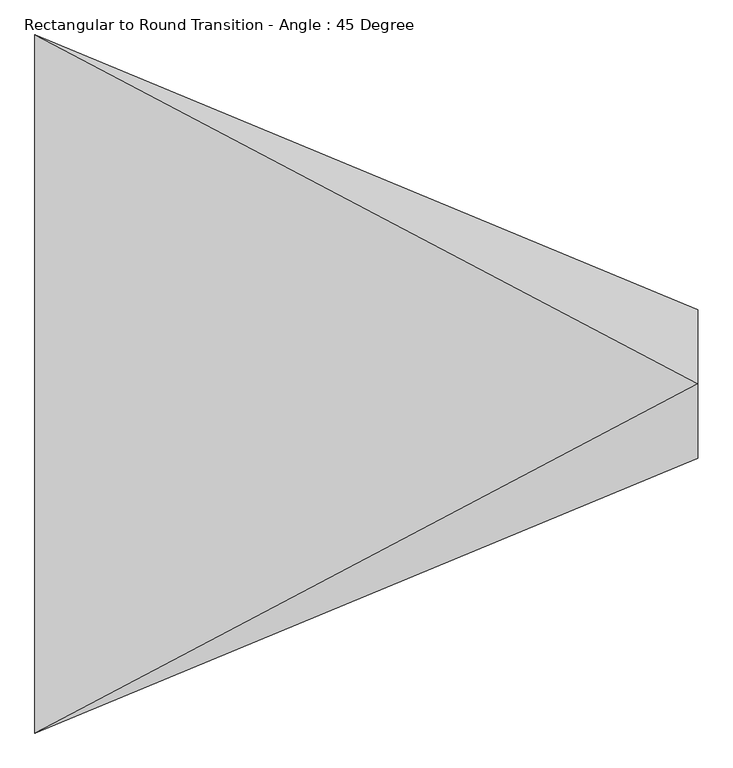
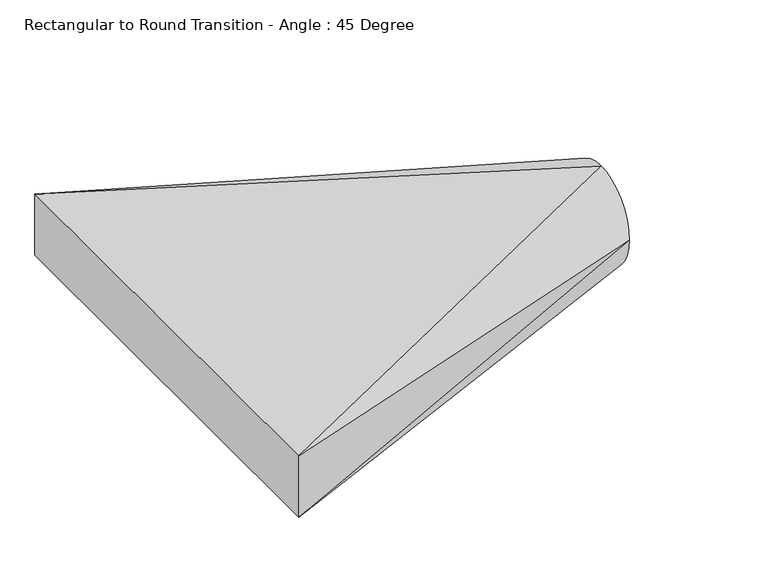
"""IFC4 building model written with IfcOpenShell, lengths in millimetres: duct fitting geometry, Rectangular to Round Transition - Angle : 45 Degree."""

import ifcopenshell
import ifcopenshell.guid

model = None  # the IFC model being written
_history = None  # IfcOwnerHistory: only IFC2X3 demands one
_inside = {}  # id of a spatial element -> (the spatial element, [elements in it])
_under = {}  # id of a project, library or spatial element -> (it, [spatial elements below it])
_declared = {}  # id of a project -> (the project, [libraries it declares])
_typed = {}  # id of a type object -> (the type object, [elements of that type])
_made_of = {}  # id of a material, layer set ... -> (it, [elements and type objects made of it])


def new_model(schema):
    """Start an empty IFC model of exactly this schema.

    Asked for "IFC4X3", IfcOpenShell would pick the latest addendum, in which some entities
    have other attributes; the version numbers below select the first issue.
    IFC2X3 requires an IfcOwnerHistory on every rooted entity: one is made here for all.
    """
    global model, _history
    if schema == "IFC4X3":
        model = ifcopenshell.file(schema_version=(4, 3, 0, 0))
    else:
        model = ifcopenshell.file(schema=schema)
    _inside.clear()
    _under.clear()
    _declared.clear()
    _typed.clear()
    _made_of.clear()
    _history = None
    if model.schema == "IFC2X3":
        org = make("IfcOrganization", Name="unknown")
        user = make(
            "IfcPersonAndOrganization",
            ThePerson=make("IfcPerson", FamilyName="unknown"),
            TheOrganization=org,
        )
        app = make(
            "IfcApplication",
            ApplicationDeveloper=org,
            Version="unknown",
            ApplicationFullName="unknown",
            ApplicationIdentifier="unknown",
        )
        _history = make(
            "IfcOwnerHistory",
            OwningUser=user,
            OwningApplication=app,
            ChangeAction="ADDED",
            CreationDate=0,
        )
    return model


def make(cls, **values):
    """One entity of the class cls with the attributes given. An attribute that is None is left unset."""
    return model.create_entity(
        cls, **{name: value for name, value in values.items() if value is not None}
    )


def rooted(cls, **values):
    """An entity with a GlobalId (a new one), such as an element, a storey or a relation."""
    return make(cls, GlobalId=ifcopenshell.guid.new(), OwnerHistory=_history, **values)


def si_unit(unit_type, name, prefix=None):
    """IfcSIUnit, for example si_unit("LENGTHUNIT", "METRE", prefix="MILLI")."""
    return make("IfcSIUnit", UnitType=unit_type, Prefix=prefix, Name=name)


def assignment(units):
    """IfcUnitAssignment: the units of a project."""
    return None if units is None else make("IfcUnitAssignment", Units=units)


def point(xyz):
    """IfcCartesianPoint."""
    return None if xyz is None else make("IfcCartesianPoint", Coordinates=xyz)


def direction(xyz):
    """IfcDirection."""
    return None if xyz is None else make("IfcDirection", DirectionRatios=xyz)


def frame(location, z_axis=None, x_axis=None):
    """IfcAxis2Placement3D, a coordinate frame: its origin and axes. An axis left out is left unset."""
    return make(
        "IfcAxis2Placement3D",
        Location=point(location),
        Axis=direction(z_axis),
        RefDirection=direction(x_axis),
    )


def origin():
    """The frame at (0, 0, 0) with its axes left unset."""
    return frame((0.0, 0.0, 0.0))


def place(relative_to, where):
    """IfcLocalPlacement: puts the frame where relative to a parent placement (None: the world)."""
    return make(
        "IfcLocalPlacement", PlacementRelTo=relative_to, RelativePlacement=where
    )


def context(
    kind, dimensions, precision=None, world=None, true_north=None, identifier=None
):
    """IfcGeometricRepresentationContext, for example the 3D "Model" context."""
    return make(
        "IfcGeometricRepresentationContext",
        ContextIdentifier=identifier,
        ContextType=kind,
        CoordinateSpaceDimension=dimensions,
        Precision=precision,
        WorldCoordinateSystem=world,
        TrueNorth=true_north,
    )


def project(units=None, contexts=None):
    """IfcProject with its units and contexts."""
    return rooted(
        "IfcProject",
        Name="project",
        RepresentationContexts=contexts,
        UnitsInContext=assignment(units),
    )


def spatial(cls, under=None, at=None, **own):
    """A site, building, storey or space (cls), placed at a placement, below another one or the project."""
    s = rooted(cls, ObjectPlacement=at, **own)
    if under is not None:
        _under.setdefault(under.id(), (under, []))[1].append(s)
    return s


def circle_curve(where, radius):
    """IfcCircle in the frame where."""
    return make("IfcCircle", Position=where, Radius=radius)


def shape(context_of_items, identifier, shape_type, items):
    """IfcShapeRepresentation: the items that make up one representation, for example the "Body"."""
    return make(
        "IfcShapeRepresentation",
        ContextOfItems=context_of_items,
        RepresentationIdentifier=identifier,
        RepresentationType=shape_type,
        Items=items,
    )


def source(mapping_origin, context_of_items, identifier, shape_type, items):
    """IfcRepresentationMap: a shape defined once, which mapped items show again and again."""
    return make(
        "IfcRepresentationMap",
        MappingOrigin=mapping_origin,
        MappedRepresentation=shape(context_of_items, identifier, shape_type, items),
    )


def transform(
    local_origin,
    x_axis=None,
    y_axis=None,
    z_axis=None,
    scale=None,
    scale2=None,
    scale3=None,
    uniform=True,
):
    """IfcCartesianTransformationOperator3D, or its non-uniform kind. x_axis, y_axis, z_axis: its Axis1, 2, 3."""
    if uniform:
        return make(
            "IfcCartesianTransformationOperator3D",
            Axis1=direction(x_axis),
            Axis2=direction(y_axis),
            LocalOrigin=point(local_origin),
            Scale=scale,
            Axis3=direction(z_axis),
        )
    return make(
        "IfcCartesianTransformationOperator3DnonUniform",
        Axis1=direction(x_axis),
        Axis2=direction(y_axis),
        LocalOrigin=point(local_origin),
        Scale=scale,
        Axis3=direction(z_axis),
        Scale2=scale2,
        Scale3=scale3,
    )


def mapped(mapping_source, mapping_target):
    """IfcMappedItem: shows the shape of a source again, moved by a transform."""
    return make(
        "IfcMappedItem", MappingSource=mapping_source, MappingTarget=mapping_target
    )


def made_of(thing, what):
    """Note that an element or type object is made of a material, layer set ...; save() writes the relation."""
    if what is not None:
        _made_of.setdefault(what.id(), (what, []))[1].append(thing)
    return thing


def element(
    cls,
    number,
    at=None,
    inside=None,
    cuts=None,
    type_object=None,
    material=None,
    context=None,
    identifier="Body",
    shape_type=None,
    held_by="IfcProductDefinitionShape",
    body=None,
    shapes=None,
    **own,
):
    """One element of the class cls, such as IfcWall. Its Tag is "e" and its number.

    at: its placement. inside: the storey or other place that contains it. cuts: it is an
    opening in that element (IfcRelVoidsElement). A single representation is given by context,
    identifier, shape_type and body (its items); several are given by shapes. held_by: the class
    of the entity that holds the representations. save() writes the other relations.
    """
    e = rooted(cls, Tag="e%d" % number, ObjectPlacement=at, **own)
    if body is not None:
        shapes = [shape(context, identifier, shape_type, body)]
    if shapes is not None:
        e.Representation = make(held_by, Representations=shapes)
    if inside is not None:
        _inside.setdefault(inside.id(), (inside, []))[1].append(e)
    if cuts is not None:
        rooted(
            "IfcRelVoidsElement", RelatingBuildingElement=cuts, RelatedOpeningElement=e
        )
    if type_object is not None:
        _typed.setdefault(type_object.id(), (type_object, []))[1].append(e)
    return made_of(e, material)


def aggregate(whole, parts):
    """IfcRelAggregates: a whole, such as a stair, and the parts it consists of."""
    return rooted("IfcRelAggregates", RelatingObject=whole, RelatedObjects=parts)


def save(model, path):
    """Write the relations noted so far, then the file.

    IfcRelAggregates (storeys below a building ...), IfcRelContainedInSpatialStructure (elements
    in a storey), IfcRelDefinesByType, IfcRelAssociatesMaterial and IfcRelDeclares: one each for
    every whole, place, type object, material and project.
    """
    for whole, parts in _under.values():
        aggregate(whole, parts)
    for where, things in _inside.values():
        rooted(
            "IfcRelContainedInSpatialStructure",
            RelatedElements=things,
            RelatingStructure=where,
        )
    for kind, things in _typed.values():
        rooted("IfcRelDefinesByType", RelatedObjects=things, RelatingType=kind)
    for what, things in _made_of.values():
        rooted("IfcRelAssociatesMaterial", RelatedObjects=things, RelatingMaterial=what)
    for by, libraries in _declared.values():
        rooted("IfcRelDeclares", RelatingContext=by, RelatedDefinitions=libraries)
    model.write(path)


def plane_surface(at):
    """IfcPlane: the flat surface through the origin of the frame at, square to its z axis."""
    return make("IfcPlane", Position=at)


def spline_surface(u_degree, v_degree, points, u_multiplicities, v_multiplicities, u_knots, v_knots, weights=None):
    """IfcBSplineSurfaceWithKnots; with weights, IfcRationalBSplineSurfaceWithKnots. points: one row for each step in u."""
    own = dict(
        UDegree=u_degree,
        VDegree=v_degree,
        ControlPointsList=[[point(p) for p in row] for row in points],
        SurfaceForm="UNSPECIFIED",
        UClosed=False,
        VClosed=False,
        SelfIntersect=False,
        UMultiplicities=u_multiplicities,
        VMultiplicities=v_multiplicities,
        UKnots=u_knots,
        VKnots=v_knots,
        KnotSpec="UNSPECIFIED",
    )
    if weights is None:
        return make("IfcBSplineSurfaceWithKnots", **own)
    return make("IfcRationalBSplineSurfaceWithKnots", WeightsData=weights, **own)


def advanced_brep(points, edges, surfaces, faces):
    """IfcAdvancedBrep: a solid bounded by faces that lie on surfaces and meet in shared edges.

    An edge is (start, end): straight between two places in points (the first is 0);
    or (start, end, curve); or (start, end, curve, False) where it runs against its curve.
    A face is (place in surfaces, loops), or (place, loops, False) where it looks against
    its surface's normal. A loop lists edges by number (the first is 1), with a minus sign
    where the edge is run from its end to its start. The first loop is the outer one.
    """
    corners = [point(p) for p in points]
    vertices = [make("IfcVertexPoint", VertexGeometry=c) for c in corners]
    made = []
    for start, end, *more in edges:
        made.append(
            make(
                "IfcEdgeCurve",
                EdgeStart=vertices[start],
                EdgeEnd=vertices[end],
                EdgeGeometry=more[0] if more else make("IfcPolyline", Points=[corners[start], corners[end]]),
                SameSense=more[1] if len(more) > 1 else True,
            )
        )
    hull = []
    for where, loops, *sense in faces:
        bounds = []
        for j, loop in enumerate(loops):
            ring = [make("IfcOrientedEdge", EdgeElement=made[abs(k) - 1], Orientation=k > 0) for k in loop]
            bounds.append(
                make(
                    "IfcFaceOuterBound" if j == 0 else "IfcFaceBound",
                    Bound=make("IfcEdgeLoop", EdgeList=ring),
                    Orientation=True,
                )
            )
        hull.append(make("IfcAdvancedFace", Bounds=bounds, FaceSurface=surfaces[where], SameSense=sense[0] if sense else True))
    return make("IfcAdvancedBrep", Outer=make("IfcClosedShell", CfsFaces=hull))


def rectangular_to_round_transition_angle_45_degree_c21d7c10(model_context):
    return source(origin(), model_context, "Body", "AdvancedBrep", [
        advanced_brep(
        [(1130.5762113, 0.0, 126.8688356), (1130.5762113, -127.0, -0.1311644), (1130.5762113, 0.0, -127.1311644), (1130.5762113, 127.0, -0.1311644), (0.0, -595.3, 84.5), (0.0, 595.3, 84.5), (0.0, 595.3, -84.5), (0.0, -595.3, -84.5)],
        [
            (0, 1, circle_curve(frame((1130.5762113, 0.0, -0.1311644), z_axis=(1.0, 0.0, 0.0), x_axis=(0.0, 1.0, 0.0)), 127.0)),
            (1, 2, circle_curve(frame((1130.5762113, 0.0, -0.1311644), z_axis=(1.0, 0.0, 0.0), x_axis=(0.0, 1.0, 0.0)), 127.0)),
            (2, 3, circle_curve(frame((1130.5762113, 0.0, -0.1311644), z_axis=(1.0, 0.0, 0.0), x_axis=(0.0, 1.0, 0.0)), 127.0)),
            (3, 0, circle_curve(frame((1130.5762113, 0.0, -0.1311644), z_axis=(1.0, 0.0, 0.0), x_axis=(0.0, 1.0, 0.0)), 127.0)),
            (4, 5),
            (5, 6),
            (6, 7),
            (7, 4),
            (0, 4),
            (4, 1),
            (7, 1),
            (7, 2),
            (6, 2),
            (6, 3),
            (5, 3),
            (5, 0),
        ],
        [
            plane_surface(frame((1130.5762113, 0.0, -0.1311644), z_axis=(1.0, 0.0, 0.0), x_axis=(0.0, 0.0, -1.0))),
            plane_surface(frame((0.0, 0.0, 0.0), z_axis=(-1.0, 0.0, 0.0), x_axis=(0.0, 0.0, -1.0))),
            spline_surface(2, 1, [[(0.0, -595.3, 84.5), (1130.5762113, 0.0, 126.8688356)], [(0.0, -595.3, 84.5), (1130.5762113, -127.0, 126.8688356)], [(0.0, -595.3, 84.5), (1130.5762113, -127.0, -0.1311644)]], [3, 3], [2, 2], [0.0, 1.0], [0.0, 1.0], weights=[[1.0, 1.0], [0.7071067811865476, 0.7071067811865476], [1.0, 1.0]]),
            plane_surface(frame((0.0, -595.3, 0.0), z_axis=(0.3826834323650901, -0.9238795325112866, 0.0), x_axis=(0.0, 0.0, -1.0))),
            spline_surface(2, 1, [[(0.0, -595.3, -84.5), (1130.5762113, -127.0, -0.1311644)], [(0.0, -595.3, -84.5), (1130.5762113, -127.0, -127.1311644)], [(0.0, -595.3, -84.5), (1130.5762113, 0.0, -127.1311644)]], [3, 3], [2, 2], [0.0, 1.0], [0.0, 1.0], weights=[[1.0, 1.0], [0.7071067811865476, 0.7071067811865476], [1.0, 1.0]]),
            plane_surface(frame((0.0, 0.0, -84.5), z_axis=(-0.03768068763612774, 0.0, -0.9992898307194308), x_axis=(0.0, 1.0, 0.0))),
            spline_surface(2, 1, [[(0.0, 595.3, -84.5), (1130.5762113, 0.0, -127.1311644)], [(0.0, 595.3, -84.5), (1130.5762113, 127.0, -127.1311644)], [(0.0, 595.3, -84.5), (1130.5762113, 127.0, -0.1311644)]], [3, 3], [2, 2], [0.0, 1.0], [0.0, 1.0], weights=[[1.0, 1.0], [0.7071067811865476, 0.7071067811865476], [1.0, 1.0]]),
            plane_surface(frame((0.0, 595.3, 0.0), z_axis=(0.382683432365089, 0.9238795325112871, 0.0), x_axis=(0.0, 0.0, 1.0))),
            spline_surface(2, 1, [[(0.0, 595.3, 84.5), (1130.5762113, 127.0, -0.1311644)], [(0.0, 595.3, 84.5), (1130.5762113, 127.0, 126.8688356)], [(0.0, 595.3, 84.5), (1130.5762113, 0.0, 126.8688356)]], [3, 3], [2, 2], [0.0, 1.0], [0.0, 1.0], weights=[[1.0, 1.0], [0.7071067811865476, 0.7071067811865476], [1.0, 1.0]]),
            plane_surface(frame((0.0, 0.0, 84.5), z_axis=(-0.037449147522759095, 0.0, 0.9992985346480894), x_axis=(0.0, -1.0, 0.0))),
        ],
        [
            (0, [[1, 2, 3, 4]]),
            (1, [[5, 6, 7, 8]]),
            (2, [[-1, 9, 10]]),
            (3, [[-8, 11, -10]]),
            (4, [[-2, -11, 12]]),
            (5, [[-7, 13, -12]]),
            (6, [[-3, -13, 14]]),
            (7, [[-6, 15, -14]]),
            (8, [[-4, -15, 16]]),
            (9, [[-5, -9, -16]]),
        ],
    ),
    ])


if __name__ == "__main__":
    model = new_model("IFC4")
    model_context = context("Model", 3, world=origin())
    ifc_project = project(units=[si_unit("LENGTHUNIT", "METRE", prefix="MILLI")], contexts=[model_context])
    site = spatial("IfcSite", under=ifc_project)
    building = spatial("IfcBuilding", under=site)
    placement = place(None, origin())
    rectangular_to_round_transition_angle_45_degree_shape = rectangular_to_round_transition_angle_45_degree_c21d7c10(model_context)
    element("IfcDuctFitting", 1, ObjectType="Rectangular to Round Transition - Angle : 45 Degree", at=placement, inside=building, context=model_context, shape_type="MappedRepresentation", body=[
        mapped(rectangular_to_round_transition_angle_45_degree_shape, transform((0.0, 0.0, 0.0), x_axis=(1.0, 0.0, 0.0), y_axis=(0.0, 1.0, 0.0), z_axis=(0.0, 0.0, 1.0))),
    ])
    save(model, "model.ifc")
